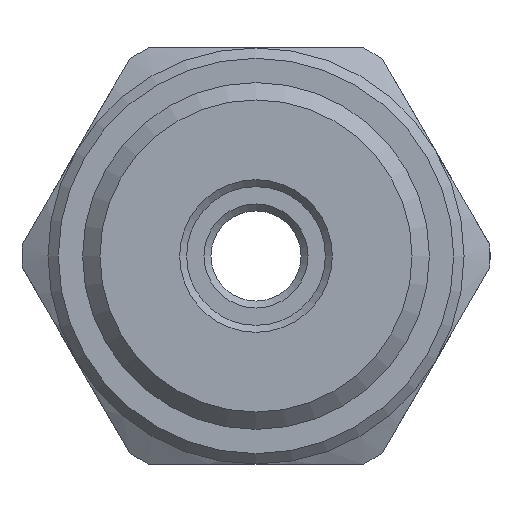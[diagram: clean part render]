
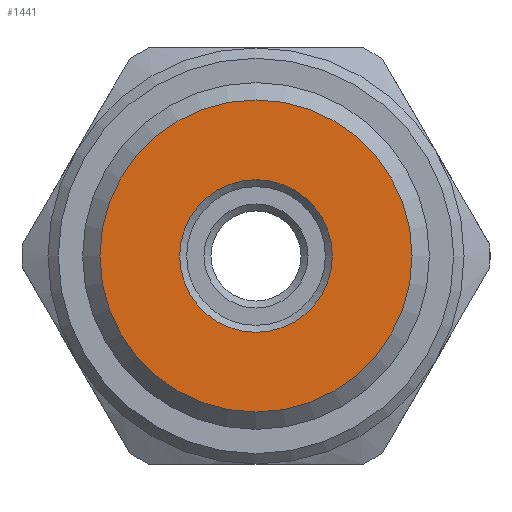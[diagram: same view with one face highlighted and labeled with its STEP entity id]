
A CAD part, left-side view. The second image highlights one B-rep face of the part: STEP entity #1441.
In plain terms, the highlighted planar face has unit normal (-1, 0, 0).
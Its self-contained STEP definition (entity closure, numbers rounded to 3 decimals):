
#1441=ADVANCED_FACE('',(#3953,#3954),#3955,.F.);
#1483=EDGE_CURVE('',#4016,#4016,#4017,.T.);
#3953=FACE_BOUND('',#7377,.T.);
#3954=FACE_OUTER_BOUND('',#7378,.T.);
#3955=PLANE('',#7379);
#4016=VERTEX_POINT('',#7482);
#4017=CIRCLE('',#7483,2.2);
#7377=EDGE_LOOP('',(#14472));
#7378=EDGE_LOOP('',(#14473));
#7379=AXIS2_PLACEMENT_3D('',#14474,#14475,#14476);
#7482=CARTESIAN_POINT('',(-9.0,-2.2,0.0));
#7483=AXIS2_PLACEMENT_3D('',#14526,#14527,#14528);
#14472=ORIENTED_EDGE('',*,*,#1483,.F.);
#14473=ORIENTED_EDGE('',*,*,#18202,.T.);
#14474=CARTESIAN_POINT('',(-9.0,0.0,0.0));
#14475=DIRECTION('',(1.0,0.0,0.0));
#14476=DIRECTION('',(0.0,1.0,0.0));
#14526=CARTESIAN_POINT('',(-9.0,0.0,0.0));
#14527=DIRECTION('',(-1.0,0.0,0.0));
#14528=DIRECTION('',(0.0,-1.0,0.0));
#18202=EDGE_CURVE('',#18543,#18543,#18544,.T.);
#18543=VERTEX_POINT('',#18886);
#18544=CIRCLE('',#18887,4.5);
#18886=CARTESIAN_POINT('',(-9.0,0.,-4.5));
#18887=AXIS2_PLACEMENT_3D('',#19188,#19189,#19190);
#19188=CARTESIAN_POINT('',(-9.0,0.,0.));
#19189=DIRECTION('',(-1.0,0.0,0.0));
#19190=DIRECTION('',(0.0,0.0,-1.0));
